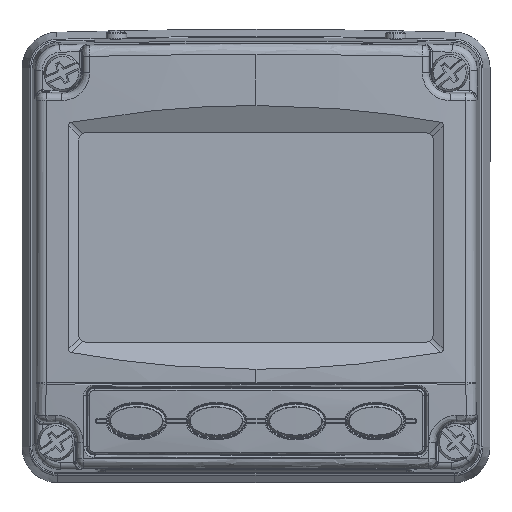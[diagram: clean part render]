
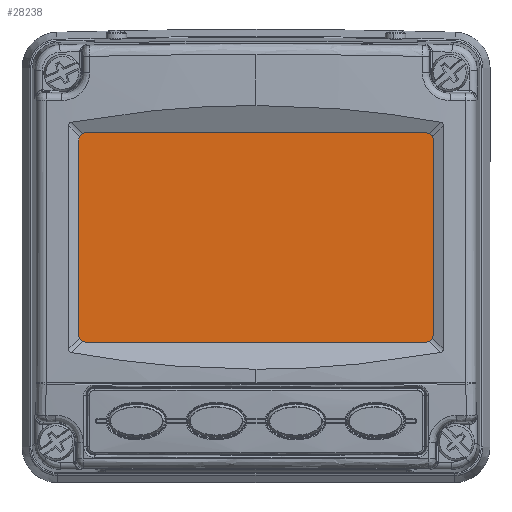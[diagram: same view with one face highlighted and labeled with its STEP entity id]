
A CAD part, top view. The second image highlights one B-rep face of the part: STEP entity #28238.
In plain terms, the highlighted planar face has unit normal (0, 0, 1).
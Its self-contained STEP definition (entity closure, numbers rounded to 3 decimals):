
#2630 = CARTESIAN_POINT ( 'NONE',  ( -55., 37.5, 32.05 ) ) ;
#3051 = LINE ( 'NONE', #50946, #71994 ) ;
#5784 = CARTESIAN_POINT ( 'NONE',  ( -54., 38.5, 32.05 ) ) ;
#6171 = ORIENTED_EDGE ( 'NONE', *, *, #78743, .T. ) ;
#12126 = LINE ( 'NONE', #2630, #46624 ) ;
#13427 = EDGE_CURVE ( 'NONE', #144318, #20731, #40575, .T. ) ;
#20731 = VERTEX_POINT ( 'NONE', #61368 ) ;
#25383 = DIRECTION ( 'NONE',  ( 1., 0., 0. ) ) ;
#25742 = EDGE_CURVE ( 'NONE', #135685, #44671, #165944, .T. ) ;
#28171 = VECTOR ( 'NONE', #35521, 1000. ) ;
#28238 = ADVANCED_FACE ( 'NONE', ( #156371 ), #150123, .F. ) ;
#35521 = DIRECTION ( 'NONE',  ( 0., 1., 0. ) ) ;
#39566 = CARTESIAN_POINT ( 'NONE',  ( -54., -28.5, 32.05 ) ) ;
#40575 = LINE ( 'NONE', #104063, #109708 ) ;
#40914 = CARTESIAN_POINT ( 'NONE',  ( 54., 38.5, 32.05 ) ) ;
#44671 = VERTEX_POINT ( 'NONE', #110504 ) ;
#46624 = VECTOR ( 'NONE', #106435, 1000. ) ;
#46993 = CARTESIAN_POINT ( 'NONE',  ( -55., 37.5, 32.05 ) ) ;
#49869 = DIRECTION ( 'NONE',  ( 0.707, -0.707, 0. ) ) ;
#50946 = CARTESIAN_POINT ( 'NONE',  ( -55., -27.5, 32.05 ) ) ;
#53593 = DIRECTION ( 'NONE',  ( 0., -1., 0. ) ) ;
#54170 = LINE ( 'NONE', #40914, #157825 ) ;
#55156 = CARTESIAN_POINT ( 'NONE',  ( 55., -27.5, 32.05 ) ) ;
#59736 = CARTESIAN_POINT ( 'NONE',  ( 0., 5., 32.05 ) ) ;
#61368 = CARTESIAN_POINT ( 'NONE',  ( -55., -27.5, 32.05 ) ) ;
#62064 = EDGE_CURVE ( 'NONE', #123794, #137468, #70771, .T. ) ;
#70470 = LINE ( 'NONE', #117346, #135574 ) ;
#70771 = LINE ( 'NONE', #80252, #139935 ) ;
#71574 = VERTEX_POINT ( 'NONE', #140877 ) ;
#71994 = VECTOR ( 'NONE', #49869, 1000. ) ;
#72764 = DIRECTION ( 'NONE',  ( -1., 0., 0. ) ) ;
#73304 = EDGE_CURVE ( 'NONE', #71574, #123794, #54170, .T. ) ;
#74509 = CARTESIAN_POINT ( 'NONE',  ( 55., -27.5, 32.05 ) ) ;
#75337 = CARTESIAN_POINT ( 'NONE',  ( 54., 38.5, 32.05 ) ) ;
#75575 = ORIENTED_EDGE ( 'NONE', *, *, #25742, .T. ) ;
#78743 = EDGE_CURVE ( 'NONE', #20731, #135685, #3051, .T. ) ;
#80252 = CARTESIAN_POINT ( 'NONE',  ( -54., 38.5, 32.05 ) ) ;
#88572 = ORIENTED_EDGE ( 'NONE', *, *, #13427, .T. ) ;
#89883 = ORIENTED_EDGE ( 'NONE', *, *, #62064, .T. ) ;
#90277 = ORIENTED_EDGE ( 'NONE', *, *, #121697, .T. ) ;
#91121 = DIRECTION ( 'NONE',  ( 0.707, 0.707, 0. ) ) ;
#92461 = DIRECTION ( 'NONE',  ( -0.707, 0.707, 0. ) ) ;
#93674 = EDGE_CURVE ( 'NONE', #137468, #144318, #12126, .T. ) ;
#94850 = ORIENTED_EDGE ( 'NONE', *, *, #73304, .T. ) ;
#104063 = CARTESIAN_POINT ( 'NONE',  ( -55., -27.5, 32.05 ) ) ;
#106435 = DIRECTION ( 'NONE',  ( -0.707, -0.707, 0. ) ) ;
#109708 = VECTOR ( 'NONE', #53593, 1000. ) ;
#110504 = CARTESIAN_POINT ( 'NONE',  ( 54., -28.5, 32.05 ) ) ;
#117346 = CARTESIAN_POINT ( 'NONE',  ( 54., -28.5, 32.05 ) ) ;
#117712 = VERTEX_POINT ( 'NONE', #55156 ) ;
#121697 = EDGE_CURVE ( 'NONE', #44671, #117712, #70470, .T. ) ;
#123794 = VERTEX_POINT ( 'NONE', #75337 ) ;
#125738 = ORIENTED_EDGE ( 'NONE', *, *, #154136, .T. ) ;
#129215 = DIRECTION ( 'NONE',  ( -1., 0., 0. ) ) ;
#131398 = VECTOR ( 'NONE', #25383, 1000. ) ;
#131723 = LINE ( 'NONE', #74509, #28171 ) ;
#135574 = VECTOR ( 'NONE', #91121, 1000. ) ;
#135685 = VERTEX_POINT ( 'NONE', #39566 ) ;
#137468 = VERTEX_POINT ( 'NONE', #5784 ) ;
#139935 = VECTOR ( 'NONE', #129215, 1000. ) ;
#140877 = CARTESIAN_POINT ( 'NONE',  ( 55., 37.5, 32.05 ) ) ;
#142231 = CARTESIAN_POINT ( 'NONE',  ( -54., -28.5, 32.05 ) ) ;
#144318 = VERTEX_POINT ( 'NONE', #46993 ) ;
#146416 = EDGE_LOOP ( 'NONE', ( #88572, #6171, #75575, #90277, #125738, #94850, #89883, #164155 ) ) ;
#150123 = PLANE ( 'NONE',  #157443 ) ;
#150688 = DIRECTION ( 'NONE',  ( 0., 0., -1. ) ) ;
#154136 = EDGE_CURVE ( 'NONE', #117712, #71574, #131723, .T. ) ;
#156371 = FACE_OUTER_BOUND ( 'NONE', #146416, .T. ) ;
#157443 = AXIS2_PLACEMENT_3D ( 'NONE', #59736, #150688, #72764 ) ;
#157825 = VECTOR ( 'NONE', #92461, 1000. ) ;
#164155 = ORIENTED_EDGE ( 'NONE', *, *, #93674, .T. ) ;
#165944 = LINE ( 'NONE', #142231, #131398 ) ;
